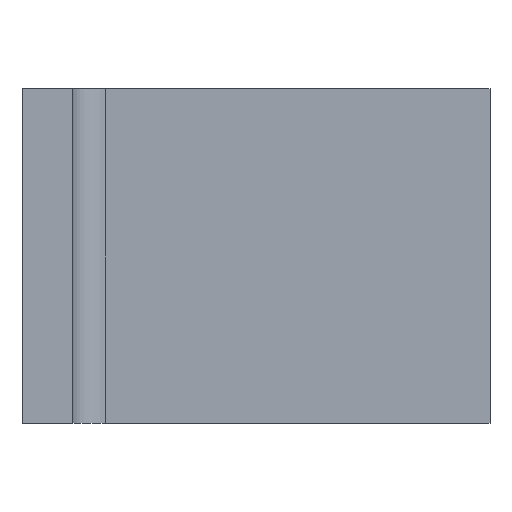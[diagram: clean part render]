
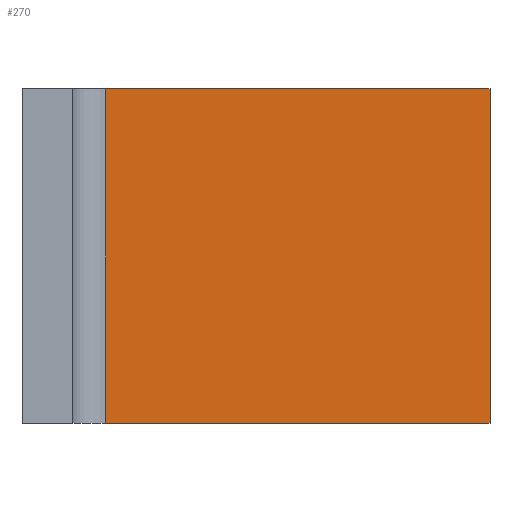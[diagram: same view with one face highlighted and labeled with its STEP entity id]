
A CAD part, left-side view. The second image highlights one B-rep face of the part: STEP entity #270.
In plain terms, the highlighted planar face has unit normal (-1, 0, 0).
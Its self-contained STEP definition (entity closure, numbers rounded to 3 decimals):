
#5=DIRECTION('',(0.,-1.,0.));
#6=VECTOR('',#5,46.);
#7=CARTESIAN_POINT('',(0.,-10.,0.));
#8=LINE('',#7,#6);
#65=DIRECTION('',(0.,0.,1.));
#66=VECTOR('',#65,40.);
#67=CARTESIAN_POINT('',(0.,-56.,0.));
#68=LINE('',#67,#66);
#69=DIRECTION('',(0.,0.,1.));
#70=VECTOR('',#69,40.);
#71=CARTESIAN_POINT('',(0.,-10.,0.));
#72=LINE('',#71,#70);
#83=DIRECTION('',(0.,-1.,0.));
#84=VECTOR('',#83,46.);
#85=CARTESIAN_POINT('',(0.,-10.,40.));
#86=LINE('',#85,#84);
#115=CARTESIAN_POINT('',(0.,-56.,0.));
#117=VERTEX_POINT('',#115);
#125=CARTESIAN_POINT('',(0.,-56.,40.));
#127=VERTEX_POINT('',#125);
#143=CARTESIAN_POINT('',(0.,-10.,0.));
#144=CARTESIAN_POINT('',(0.,-10.,40.));
#145=VERTEX_POINT('',#143);
#146=VERTEX_POINT('',#144);
#257=CARTESIAN_POINT('',(0.,-6.,0.));
#258=DIRECTION('',(-1.,0.,0.));
#259=DIRECTION('',(0.,-1.,0.));
#260=AXIS2_PLACEMENT_3D('',#257,#258,#259);
#261=PLANE('',#260);
#263=ORIENTED_EDGE('',*,*,#262,.T.);
#265=ORIENTED_EDGE('',*,*,#264,.T.);
#266=ORIENTED_EDGE('',*,*,#249,.F.);
#267=ORIENTED_EDGE('',*,*,#160,.F.);
#268=EDGE_LOOP('',(#263,#265,#266,#267));
#269=FACE_OUTER_BOUND('',#268,.F.);
#270=ADVANCED_FACE('',(#269),#261,.T.);
#160=EDGE_CURVE('',#145,#117,#8,.T.);
#249=EDGE_CURVE('',#117,#127,#68,.T.);
#262=EDGE_CURVE('',#145,#146,#72,.T.);
#264=EDGE_CURVE('',#146,#127,#86,.T.);
